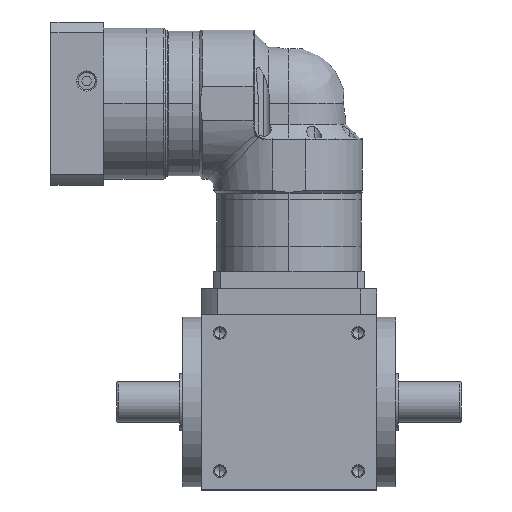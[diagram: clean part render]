
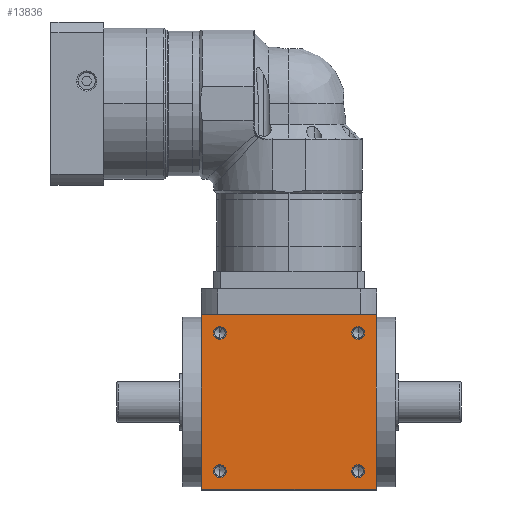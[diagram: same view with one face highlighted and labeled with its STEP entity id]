
A CAD part, front view. The second image highlights one B-rep face of the part: STEP entity #13836.
In plain terms, the highlighted planar face has unit normal (0, -1, 0).
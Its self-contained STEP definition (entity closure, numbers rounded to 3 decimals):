
#1207 = AXIS2_PLACEMENT_3D ( 'NONE', #53207, #20230, #58740 ) ;
#1775 = ORIENTED_EDGE ( 'NONE', *, *, #57732, .F. ) ;
#1849 = VERTEX_POINT ( 'NONE', #62700 ) ;
#2503 = ORIENTED_EDGE ( 'NONE', *, *, #10265, .F. ) ;
#2583 = VERTEX_POINT ( 'NONE', #66858 ) ;
#2595 = VERTEX_POINT ( 'NONE', #23058 ) ;
#3665 = CARTESIAN_POINT ( 'NONE',  ( 69.5, -70., 0.5 ) ) ;
#5113 = FACE_BOUND ( 'NONE', #63705, .T. ) ;
#5525 = EDGE_CURVE ( 'NONE', #62815, #2583, #54150, .T. ) ;
#5897 = DIRECTION ( 'NONE',  ( 1., 0., 0. ) ) ;
#6575 = EDGE_CURVE ( 'NONE', #1849, #12162, #61775, .T. ) ;
#8055 = CARTESIAN_POINT ( 'NONE',  ( 55., -70., 119.975 ) ) ;
#8803 = DIRECTION ( 'NONE',  ( 0., -1., 0. ) ) ;
#10254 = EDGE_LOOP ( 'NONE', ( #68274, #17118, #43261, #49027 ) ) ;
#10265 = EDGE_CURVE ( 'NONE', #62524, #42013, #60386, .T. ) ;
#10376 = EDGE_LOOP ( 'NONE', ( #44182, #43590 ) ) ;
#10562 = VERTEX_POINT ( 'NONE', #27930 ) ;
#11365 = ORIENTED_EDGE ( 'NONE', *, *, #41398, .F. ) ;
#11511 = CARTESIAN_POINT ( 'NONE',  ( 55., -70., 15. ) ) ;
#11890 = CARTESIAN_POINT ( 'NONE',  ( 55., -70., 125. ) ) ;
#12123 = DIRECTION ( 'NONE',  ( 0., -1., 0. ) ) ;
#12162 = VERTEX_POINT ( 'NONE', #34377 ) ;
#12323 = CARTESIAN_POINT ( 'NONE',  ( -69.5, -70., 140. ) ) ;
#12576 = PLANE ( 'NONE',  #29027 ) ;
#12686 = VERTEX_POINT ( 'NONE', #56668 ) ;
#12994 = DIRECTION ( 'NONE',  ( 0., 0., -1. ) ) ;
#13836 = ADVANCED_FACE ( 'NONE', ( #50808, #19757, #61983, #5113, #47352 ), #12576, .F. ) ;
#14756 = AXIS2_PLACEMENT_3D ( 'NONE', #50697, #17696, #56218 ) ;
#15329 = ORIENTED_EDGE ( 'NONE', *, *, #29205, .F. ) ;
#16979 = AXIS2_PLACEMENT_3D ( 'NONE', #41805, #8803, #47343 ) ;
#17017 = DIRECTION ( 'NONE',  ( 0., 0., -1. ) ) ;
#17118 = ORIENTED_EDGE ( 'NONE', *, *, #39241, .F. ) ;
#17430 = DIRECTION ( 'NONE',  ( 0., 0., -1. ) ) ;
#17459 = CARTESIAN_POINT ( 'NONE',  ( -55., -70., 15. ) ) ;
#17696 = DIRECTION ( 'NONE',  ( 0., -1., 0. ) ) ;
#17888 = CIRCLE ( 'NONE', #29808, 5.025 ) ;
#19757 = FACE_BOUND ( 'NONE', #63229, .T. ) ;
#20036 = EDGE_CURVE ( 'NONE', #49490, #2595, #45845, .T. ) ;
#20230 = DIRECTION ( 'NONE',  ( 0., -1., 0. ) ) ;
#20665 = EDGE_LOOP ( 'NONE', ( #54869, #58056 ) ) ;
#20847 = CARTESIAN_POINT ( 'NONE',  ( -69.5, -70., 139.5 ) ) ;
#22266 = CARTESIAN_POINT ( 'NONE',  ( -70., -70., 139.5 ) ) ;
#23002 = DIRECTION ( 'NONE',  ( 0., 0., -1. ) ) ;
#23058 = CARTESIAN_POINT ( 'NONE',  ( -69.5, -70., 0.5 ) ) ;
#24971 = EDGE_CURVE ( 'NONE', #2583, #62815, #62568, .T. ) ;
#27691 = EDGE_CURVE ( 'NONE', #12162, #1849, #58533, .T. ) ;
#27930 = CARTESIAN_POINT ( 'NONE',  ( 69.5, -70., 139.5 ) ) ;
#29027 = AXIS2_PLACEMENT_3D ( 'NONE', #51131, #34488, #56624 ) ;
#29205 = EDGE_CURVE ( 'NONE', #12686, #59690, #17888, .T. ) ;
#29595 = CARTESIAN_POINT ( 'NONE',  ( -70., -70., 0.5 ) ) ;
#29808 = AXIS2_PLACEMENT_3D ( 'NONE', #30210, #68679, #35742 ) ;
#30210 = CARTESIAN_POINT ( 'NONE',  ( -55., -70., 125. ) ) ;
#31157 = LINE ( 'NONE', #12323, #58691 ) ;
#31192 = VECTOR ( 'NONE', #51744, 1000. ) ;
#31713 = VECTOR ( 'NONE', #12994, 1000. ) ;
#32896 = CARTESIAN_POINT ( 'NONE',  ( -55., -70., 9.975 ) ) ;
#33421 = LINE ( 'NONE', #40672, #31713 ) ;
#34377 = CARTESIAN_POINT ( 'NONE',  ( 55., -70., 20.025 ) ) ;
#34488 = DIRECTION ( 'NONE',  ( 0., 1., 0. ) ) ;
#35742 = DIRECTION ( 'NONE',  ( 0., 0., -1. ) ) ;
#36336 = AXIS2_PLACEMENT_3D ( 'NONE', #17459, #55969, #23002 ) ;
#36838 = EDGE_CURVE ( 'NONE', #2595, #37620, #31157, .T. ) ;
#36853 = LINE ( 'NONE', #22266, #40316 ) ;
#37495 = CIRCLE ( 'NONE', #16979, 5.025 ) ;
#37620 = VERTEX_POINT ( 'NONE', #20847 ) ;
#39241 = EDGE_CURVE ( 'NONE', #10562, #49490, #33421, .T. ) ;
#40006 = DIRECTION ( 'NONE',  ( 0., 0., 1. ) ) ;
#40316 = VECTOR ( 'NONE', #5897, 1000. ) ;
#40672 = CARTESIAN_POINT ( 'NONE',  ( 69.5, -70., 140. ) ) ;
#40999 = CARTESIAN_POINT ( 'NONE',  ( -55., -70., 119.975 ) ) ;
#41398 = EDGE_CURVE ( 'NONE', #59690, #12686, #37495, .T. ) ;
#41805 = CARTESIAN_POINT ( 'NONE',  ( -55., -70., 125. ) ) ;
#42013 = VERTEX_POINT ( 'NONE', #59001 ) ;
#43261 = ORIENTED_EDGE ( 'NONE', *, *, #64846, .F. ) ;
#43590 = ORIENTED_EDGE ( 'NONE', *, *, #27691, .F. ) ;
#44182 = ORIENTED_EDGE ( 'NONE', *, *, #6575, .F. ) ;
#45140 = CARTESIAN_POINT ( 'NONE',  ( 55., -70., 15. ) ) ;
#45845 = LINE ( 'NONE', #29595, #31192 ) ;
#47343 = DIRECTION ( 'NONE',  ( 0., 0., -1. ) ) ;
#47352 = FACE_OUTER_BOUND ( 'NONE', #10254, .T. ) ;
#49027 = ORIENTED_EDGE ( 'NONE', *, *, #36838, .F. ) ;
#49490 = VERTEX_POINT ( 'NONE', #3665 ) ;
#50050 = DIRECTION ( 'NONE',  ( 0., -1., 0. ) ) ;
#50448 = DIRECTION ( 'NONE',  ( 0., -1., 0. ) ) ;
#50671 = DIRECTION ( 'NONE',  ( 0., 0., -1. ) ) ;
#50697 = CARTESIAN_POINT ( 'NONE',  ( 55., -70., 125. ) ) ;
#50808 = FACE_BOUND ( 'NONE', #20665, .T. ) ;
#51131 = CARTESIAN_POINT ( 'NONE',  ( -70., -70., 140. ) ) ;
#51744 = DIRECTION ( 'NONE',  ( -1., 0., 0. ) ) ;
#53207 = CARTESIAN_POINT ( 'NONE',  ( -55., -70., 15. ) ) ;
#54150 = CIRCLE ( 'NONE', #14756, 5.025 ) ;
#54869 = ORIENTED_EDGE ( 'NONE', *, *, #5525, .F. ) ;
#54936 = AXIS2_PLACEMENT_3D ( 'NONE', #45140, #12123, #50671 ) ;
#55969 = DIRECTION ( 'NONE',  ( 0., -1., 0. ) ) ;
#56218 = DIRECTION ( 'NONE',  ( 0., 0., -1. ) ) ;
#56475 = AXIS2_PLACEMENT_3D ( 'NONE', #11511, #50050, #17017 ) ;
#56624 = DIRECTION ( 'NONE',  ( 0., 0., 1. ) ) ;
#56668 = CARTESIAN_POINT ( 'NONE',  ( -55., -70., 130.025 ) ) ;
#57732 = EDGE_CURVE ( 'NONE', #42013, #62524, #68560, .T. ) ;
#58056 = ORIENTED_EDGE ( 'NONE', *, *, #24971, .F. ) ;
#58533 = CIRCLE ( 'NONE', #56475, 5.025 ) ;
#58691 = VECTOR ( 'NONE', #40006, 1000. ) ;
#58740 = DIRECTION ( 'NONE',  ( 0., 0., -1. ) ) ;
#59001 = CARTESIAN_POINT ( 'NONE',  ( -55., -70., 20.025 ) ) ;
#59690 = VERTEX_POINT ( 'NONE', #40999 ) ;
#60386 = CIRCLE ( 'NONE', #1207, 5.025 ) ;
#61775 = CIRCLE ( 'NONE', #54936, 5.025 ) ;
#61983 = FACE_BOUND ( 'NONE', #10376, .T. ) ;
#62524 = VERTEX_POINT ( 'NONE', #32896 ) ;
#62568 = CIRCLE ( 'NONE', #65117, 5.025 ) ;
#62700 = CARTESIAN_POINT ( 'NONE',  ( 55., -70., 9.975 ) ) ;
#62815 = VERTEX_POINT ( 'NONE', #8055 ) ;
#63229 = EDGE_LOOP ( 'NONE', ( #11365, #15329 ) ) ;
#63705 = EDGE_LOOP ( 'NONE', ( #2503, #1775 ) ) ;
#64846 = EDGE_CURVE ( 'NONE', #37620, #10562, #36853, .T. ) ;
#65117 = AXIS2_PLACEMENT_3D ( 'NONE', #11890, #50448, #17430 ) ;
#66858 = CARTESIAN_POINT ( 'NONE',  ( 55., -70., 130.025 ) ) ;
#68274 = ORIENTED_EDGE ( 'NONE', *, *, #20036, .F. ) ;
#68560 = CIRCLE ( 'NONE', #36336, 5.025 ) ;
#68679 = DIRECTION ( 'NONE',  ( 0., -1., 0. ) ) ;
